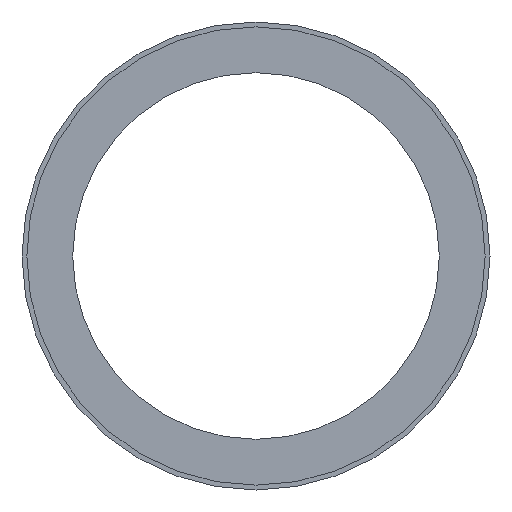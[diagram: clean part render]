
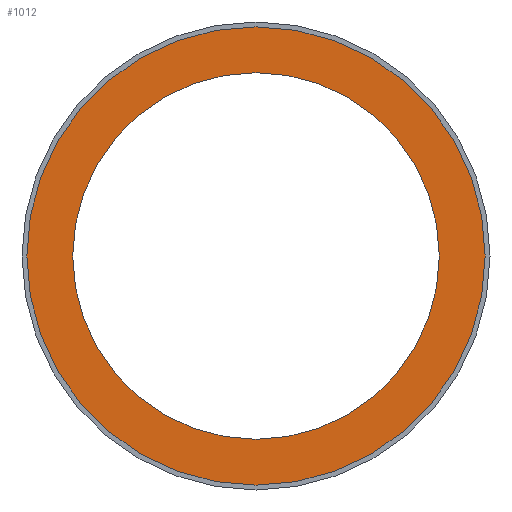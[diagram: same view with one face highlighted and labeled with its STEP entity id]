
A CAD part, front view. The second image highlights one B-rep face of the part: STEP entity #1012.
In plain terms, the highlighted planar face has unit normal (0, -1, 0).
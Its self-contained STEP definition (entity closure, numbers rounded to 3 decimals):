
#418 = VERTEX_POINT ( 'NONE', #3726 ) ;
#711 = CARTESIAN_POINT ( 'NONE',  ( 0., -50.5, 0. ) ) ;
#712 = ORIENTED_EDGE ( 'NONE', *, *, #4482, .T. ) ;
#811 = EDGE_CURVE ( 'NONE', #6422, #418, #1014, .T. ) ;
#894 = ORIENTED_EDGE ( 'NONE', *, *, #6100, .T. ) ;
#948 = CIRCLE ( 'NONE', #6671, 212.5 ) ;
#1012 = ADVANCED_FACE ( 'NONE', ( #4623, #3328 ), #7250, .F. ) ;
#1014 = CIRCLE ( 'NONE', #2409, 170. ) ;
#1184 = CARTESIAN_POINT ( 'NONE',  ( 0., -50.5, 0. ) ) ;
#1446 = CARTESIAN_POINT ( 'NONE',  ( 0., -50.5, -212.5 ) ) ;
#1695 = CARTESIAN_POINT ( 'NONE',  ( 0., -50.5, 170. ) ) ;
#2014 = DIRECTION ( 'NONE',  ( 0., 0., -1. ) ) ;
#2045 = DIRECTION ( 'NONE',  ( 0., -1., 0. ) ) ;
#2099 = EDGE_LOOP ( 'NONE', ( #894, #712 ) ) ;
#2409 = AXIS2_PLACEMENT_3D ( 'NONE', #6230, #6145, #2014 ) ;
#2738 = DIRECTION ( 'NONE',  ( 0., 0., -1. ) ) ;
#2968 = DIRECTION ( 'NONE',  ( 0., 0., 1. ) ) ;
#3328 = FACE_OUTER_BOUND ( 'NONE', #2099, .T. ) ;
#3712 = DIRECTION ( 'NONE',  ( 0., 1., 0. ) ) ;
#3726 = CARTESIAN_POINT ( 'NONE',  ( 0., -50.5, -170. ) ) ;
#4059 = DIRECTION ( 'NONE',  ( 0., -1., 0. ) ) ;
#4374 = VERTEX_POINT ( 'NONE', #8276 ) ;
#4451 = CARTESIAN_POINT ( 'NONE',  ( 0., -50.5, 170. ) ) ;
#4482 = EDGE_CURVE ( 'NONE', #4374, #6991, #948, .T. ) ;
#4623 = FACE_BOUND ( 'NONE', #6128, .T. ) ;
#4763 = AXIS2_PLACEMENT_3D ( 'NONE', #711, #7791, #8385 ) ;
#5182 = AXIS2_PLACEMENT_3D ( 'NONE', #4451, #3712, #2968 ) ;
#5386 = DIRECTION ( 'NONE',  ( 0., 0., -1. ) ) ;
#5690 = EDGE_CURVE ( 'NONE', #418, #6422, #8268, .T. ) ;
#6100 = EDGE_CURVE ( 'NONE', #6991, #4374, #7477, .T. ) ;
#6128 = EDGE_LOOP ( 'NONE', ( #6209, #7093 ) ) ;
#6145 = DIRECTION ( 'NONE',  ( 0., -1., 0. ) ) ;
#6209 = ORIENTED_EDGE ( 'NONE', *, *, #5690, .F. ) ;
#6230 = CARTESIAN_POINT ( 'NONE',  ( 0., -50.5, 0. ) ) ;
#6422 = VERTEX_POINT ( 'NONE', #1695 ) ;
#6671 = AXIS2_PLACEMENT_3D ( 'NONE', #7579, #2045, #2738 ) ;
#6991 = VERTEX_POINT ( 'NONE', #1446 ) ;
#7093 = ORIENTED_EDGE ( 'NONE', *, *, #811, .F. ) ;
#7250 = PLANE ( 'NONE',  #5182 ) ;
#7477 = CIRCLE ( 'NONE', #7691, 212.5 ) ;
#7579 = CARTESIAN_POINT ( 'NONE',  ( 0., -50.5, 0. ) ) ;
#7691 = AXIS2_PLACEMENT_3D ( 'NONE', #1184, #4059, #5386 ) ;
#7791 = DIRECTION ( 'NONE',  ( 0., -1., 0. ) ) ;
#8268 = CIRCLE ( 'NONE', #4763, 170. ) ;
#8276 = CARTESIAN_POINT ( 'NONE',  ( 0., -50.5, 212.5 ) ) ;
#8385 = DIRECTION ( 'NONE',  ( 0., 0., -1. ) ) ;
